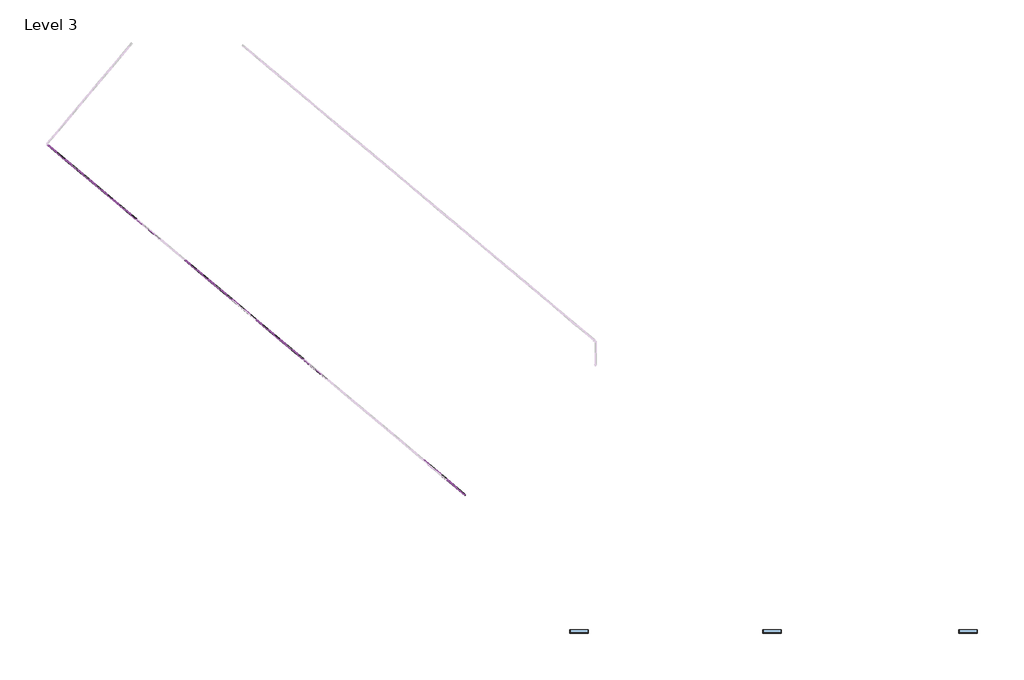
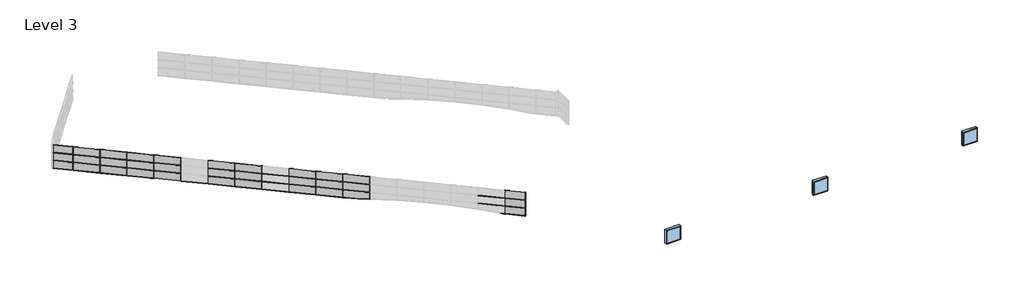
# One storey, part 1 of 4: 71 members, 33 plates, 3 windows.
"""IFC4 building model written with IfcOpenShell, lengths in millimetres."""

from ifc_helpers import new_model, si_unit, origin, place, context, project, spatial, transform, mapped, element, save
from components import member_e6b937b8, member_1b704979, member_8c8cb3fc, member_eaba9652, member_6adc840d, member_8e78e238, member_bfe1ccfe, member_e86309b8, member_6a3a2a88, member_4b62aec2, system_panel_glazed_a2c5a472, system_panel_glazed_5afc4ae2, system_panel_glazed_ccf48815, system_panel_glazed_4dfac3d5, fixed_6_x_6_52427b03

model = new_model("IFC4")

# Units and contexts
model_context = context("Model", 3, world=origin())
ifc_project = project(units=[si_unit("LENGTHUNIT", "METRE", prefix="MILLI")], contexts=[model_context])

# Site, building, storey
site = spatial("IfcSite", under=ifc_project)
building = spatial("IfcBuilding", under=site)
storey = spatial("IfcBuildingStorey", under=building, Name="Level 3", Elevation=6096.0)

# Members
placement = place(None, origin())
member_shape = member_e6b937b8(model_context)
element("IfcMember", 1, ObjectType="Rectangular Mullion : 1.5\" x 2.5\" rectangular", at=placement, inside=storey, context=model_context, shape_type="MappedRepresentation", body=[
    mapped(member_shape, transform((-19936.684019, -451.3297403, 7200.3444177), x_axis=(-0.76604444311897, 0.6427876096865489, 0.0), y_axis=(-0.6427876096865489, -0.76604444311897, 0.0), z_axis=(0.0, 0.0, 1.0))),
])
element("IfcMember", 2, ObjectType="Rectangular Mullion : 1.5\" x 2.5\" rectangular", at=placement, inside=storey, context=model_context, shape_type="MappedRepresentation", body=[
    mapped(member_shape, transform((-33946.1047947, 11303.9700657, 7200.3444177), x_axis=(-0.76604444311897, 0.6427876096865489, 0.0), y_axis=(-0.6427876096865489, -0.76604444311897, 0.0), z_axis=(0.0, 0.0, 1.0))),
])
element("IfcMember", 3, ObjectType="Rectangular Mullion : 1.5\" x 2.5\" rectangular", at=placement, inside=storey, context=model_context, shape_type="MappedRepresentation", body=[
    mapped(member_shape, transform((-36281.0082574, 13263.1867, 7200.3444177), x_axis=(-0.76604444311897, 0.6427876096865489, 0.0), y_axis=(-0.6427876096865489, -0.76604444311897, 0.0), z_axis=(0.0, 0.0, 1.0))),
])
element("IfcMember", 4, ObjectType="Rectangular Mullion : 1.5\" x 2.5\" rectangular", at=placement, inside=storey, context=model_context, shape_type="MappedRepresentation", body=[
    mapped(member_shape, transform((-38615.91172, 15222.4033343, 7200.3444177), x_axis=(-0.76604444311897, 0.6427876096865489, 0.0), y_axis=(-0.6427876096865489, -0.76604444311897, 0.0), z_axis=(0.0, 0.0, 1.0))),
])
element("IfcMember", 5, ObjectType="Rectangular Mullion : 1.5\" x 2.5\" rectangular", at=placement, inside=storey, context=model_context, shape_type="MappedRepresentation", body=[
    mapped(member_shape, transform((-40950.8151826, 17181.6199687, 7200.3444177), x_axis=(-0.76604444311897, 0.6427876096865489, 0.0), y_axis=(-0.6427876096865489, -0.76604444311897, 0.0), z_axis=(0.0, 0.0, 1.0))),
])
element("IfcMember", 6, ObjectType="Rectangular Mullion : 1.5\" x 2.5\" rectangular", at=placement, inside=storey, context=model_context, shape_type="MappedRepresentation", body=[
    mapped(member_shape, transform((-43285.7186452, 19140.836603, 7200.3444177), x_axis=(-0.76604444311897, 0.6427876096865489, 0.0), y_axis=(-0.6427876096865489, -0.76604444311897, 0.0), z_axis=(0.0, 0.0, 1.0))),
])
element("IfcMember", 7, ObjectType="Rectangular Mullion : 1.5\" x 2.5\" rectangular", at=placement, inside=storey, context=model_context, shape_type="MappedRepresentation", body=[
    mapped(member_shape, transform((-19936.684019, -451.3297403, 8267.1444177), x_axis=(-0.76604444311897, 0.6427876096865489, 0.0), y_axis=(-0.6427876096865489, -0.76604444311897, 0.0), z_axis=(0.0, 0.0, 1.0))),
])
element("IfcMember", 8, ObjectType="Rectangular Mullion : 1.5\" x 2.5\" rectangular", at=placement, inside=storey, context=model_context, shape_type="MappedRepresentation", body=[
    mapped(member_shape, transform((-33946.1047947, 11303.9700657, 8267.1444177), x_axis=(-0.76604444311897, 0.6427876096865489, 0.0), y_axis=(-0.6427876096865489, -0.76604444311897, 0.0), z_axis=(0.0, 0.0, 1.0))),
])
element("IfcMember", 9, ObjectType="Rectangular Mullion : 1.5\" x 2.5\" rectangular", at=placement, inside=storey, context=model_context, shape_type="MappedRepresentation", body=[
    mapped(member_shape, transform((-36281.0082574, 13263.1867, 8267.1444177), x_axis=(-0.76604444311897, 0.6427876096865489, 0.0), y_axis=(-0.6427876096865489, -0.76604444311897, 0.0), z_axis=(0.0, 0.0, 1.0))),
])
element("IfcMember", 10, ObjectType="Rectangular Mullion : 1.5\" x 2.5\" rectangular", at=placement, inside=storey, context=model_context, shape_type="MappedRepresentation", body=[
    mapped(member_shape, transform((-38615.91172, 15222.4033343, 8267.1444177), x_axis=(-0.76604444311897, 0.6427876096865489, 0.0), y_axis=(-0.6427876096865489, -0.76604444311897, 0.0), z_axis=(0.0, 0.0, 1.0))),
])
element("IfcMember", 11, ObjectType="Rectangular Mullion : 1.5\" x 2.5\" rectangular", at=placement, inside=storey, context=model_context, shape_type="MappedRepresentation", body=[
    mapped(member_shape, transform((-40950.8151826, 17181.6199687, 8267.1444177), x_axis=(-0.76604444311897, 0.6427876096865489, 0.0), y_axis=(-0.6427876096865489, -0.76604444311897, 0.0), z_axis=(0.0, 0.0, 1.0))),
])
element("IfcMember", 12, ObjectType="Rectangular Mullion : 1.5\" x 2.5\" rectangular", at=placement, inside=storey, context=model_context, shape_type="MappedRepresentation", body=[
    mapped(member_shape, transform((-43285.7186452, 19140.836603, 8267.1444177), x_axis=(-0.76604444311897, 0.6427876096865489, 0.0), y_axis=(-0.6427876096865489, -0.76604444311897, 0.0), z_axis=(0.0, 0.0, 1.0))),
])
element("IfcMember", 13, ObjectType="Rectangular Mullion : 1.5\" x 2.5\" rectangular", at=placement, inside=storey, context=model_context, shape_type="MappedRepresentation", body=[
    mapped(member_shape, transform((-19936.684019, -451.3297403, 9333.9444177), x_axis=(-0.76604444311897, 0.6427876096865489, 0.0), y_axis=(-0.6427876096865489, -0.76604444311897, 0.0), z_axis=(0.0, 0.0, 1.0))),
])
element("IfcMember", 14, ObjectType="Rectangular Mullion : 1.5\" x 2.5\" rectangular", at=placement, inside=storey, context=model_context, shape_type="MappedRepresentation", body=[
    mapped(member_shape, transform((-33946.1047947, 11303.9700657, 9333.9444177), x_axis=(-0.76604444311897, 0.6427876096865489, 0.0), y_axis=(-0.6427876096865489, -0.76604444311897, 0.0), z_axis=(0.0, 0.0, 1.0))),
])
element("IfcMember", 15, ObjectType="Rectangular Mullion : 1.5\" x 2.5\" rectangular", at=placement, inside=storey, context=model_context, shape_type="MappedRepresentation", body=[
    mapped(member_shape, transform((-36281.0082574, 13263.1867, 9333.9444177), x_axis=(-0.76604444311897, 0.6427876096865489, 0.0), y_axis=(-0.6427876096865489, -0.76604444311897, 0.0), z_axis=(0.0, 0.0, 1.0))),
])
element("IfcMember", 16, ObjectType="Rectangular Mullion : 1.5\" x 2.5\" rectangular", at=placement, inside=storey, context=model_context, shape_type="MappedRepresentation", body=[
    mapped(member_shape, transform((-38615.91172, 15222.4033343, 9333.9444177), x_axis=(-0.76604444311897, 0.6427876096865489, 0.0), y_axis=(-0.6427876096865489, -0.76604444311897, 0.0), z_axis=(0.0, 0.0, 1.0))),
])
element("IfcMember", 17, ObjectType="Rectangular Mullion : 1.5\" x 2.5\" rectangular", at=placement, inside=storey, context=model_context, shape_type="MappedRepresentation", body=[
    mapped(member_shape, transform((-40950.8151826, 17181.6199687, 9333.9444177), x_axis=(-0.76604444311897, 0.6427876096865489, 0.0), y_axis=(-0.6427876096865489, -0.76604444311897, 0.0), z_axis=(0.0, 0.0, 1.0))),
])
element("IfcMember", 18, ObjectType="Rectangular Mullion : 1.5\" x 2.5\" rectangular", at=placement, inside=storey, context=model_context, shape_type="MappedRepresentation", body=[
    mapped(member_shape, transform((-43285.7186452, 19140.836603, 9333.9444177), x_axis=(-0.76604444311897, 0.6427876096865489, 0.0), y_axis=(-0.6427876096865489, -0.76604444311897, 0.0), z_axis=(0.0, 0.0, 1.0))),
])
element("IfcMember", 19, ObjectType="Rectangular Mullion : 1.5\" x 2.5\" rectangular", at=placement, inside=storey, context=model_context, shape_type="MappedRepresentation", body=[
    mapped(member_shape, transform((-50290.4290331, 25018.486506, 7200.3444177), x_axis=(-0.76604444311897, 0.6427876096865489, 0.0), y_axis=(-0.6427876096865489, -0.76604444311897, 0.0), z_axis=(0.0, 0.0, 1.0))),
])
element("IfcMember", 20, ObjectType="Rectangular Mullion : 1.5\" x 2.5\" rectangular", at=placement, inside=storey, context=model_context, shape_type="MappedRepresentation", body=[
    mapped(member_shape, transform((-52625.3324958, 26977.7031403, 7200.3444177), x_axis=(-0.76604444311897, 0.6427876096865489, 0.0), y_axis=(-0.6427876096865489, -0.76604444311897, 0.0), z_axis=(0.0, 0.0, 1.0))),
])
element("IfcMember", 21, ObjectType="Rectangular Mullion : 1.5\" x 2.5\" rectangular", at=placement, inside=storey, context=model_context, shape_type="MappedRepresentation", body=[
    mapped(member_shape, transform((-54960.2359584, 28936.9197746, 7200.3444177), x_axis=(-0.76604444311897, 0.6427876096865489, 0.0), y_axis=(-0.6427876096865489, -0.76604444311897, 0.0), z_axis=(0.0, 0.0, 1.0))),
])
element("IfcMember", 22, ObjectType="Rectangular Mullion : 1.5\" x 2.5\" rectangular", at=placement, inside=storey, context=model_context, shape_type="MappedRepresentation", body=[
    mapped(member_shape, transform((-57295.139421, 30896.1364089, 7200.3444177), x_axis=(-0.76604444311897, 0.6427876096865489, 0.0), y_axis=(-0.6427876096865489, -0.76604444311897, 0.0), z_axis=(0.0, 0.0, 1.0))),
])
element("IfcMember", 23, ObjectType="Rectangular Mullion : 1.5\" x 2.5\" rectangular", at=placement, inside=storey, context=model_context, shape_type="MappedRepresentation", body=[
    mapped(member_shape, transform((-50290.4290331, 25018.486506, 8267.1444177), x_axis=(-0.76604444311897, 0.6427876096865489, 0.0), y_axis=(-0.6427876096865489, -0.76604444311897, 0.0), z_axis=(0.0, 0.0, 1.0))),
])
element("IfcMember", 24, ObjectType="Rectangular Mullion : 1.5\" x 2.5\" rectangular", at=placement, inside=storey, context=model_context, shape_type="MappedRepresentation", body=[
    mapped(member_shape, transform((-52625.3324958, 26977.7031403, 8267.1444177), x_axis=(-0.76604444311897, 0.6427876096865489, 0.0), y_axis=(-0.6427876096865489, -0.76604444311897, 0.0), z_axis=(0.0, 0.0, 1.0))),
])
element("IfcMember", 25, ObjectType="Rectangular Mullion : 1.5\" x 2.5\" rectangular", at=placement, inside=storey, context=model_context, shape_type="MappedRepresentation", body=[
    mapped(member_shape, transform((-54960.2359584, 28936.9197746, 8267.1444177), x_axis=(-0.76604444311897, 0.6427876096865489, 0.0), y_axis=(-0.6427876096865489, -0.76604444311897, 0.0), z_axis=(0.0, 0.0, 1.0))),
])
element("IfcMember", 26, ObjectType="Rectangular Mullion : 1.5\" x 2.5\" rectangular", at=placement, inside=storey, context=model_context, shape_type="MappedRepresentation", body=[
    mapped(member_shape, transform((-57295.139421, 30896.1364089, 8267.1444177), x_axis=(-0.76604444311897, 0.6427876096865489, 0.0), y_axis=(-0.6427876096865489, -0.76604444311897, 0.0), z_axis=(0.0, 0.0, 1.0))),
])
element("IfcMember", 27, ObjectType="Rectangular Mullion : 1.5\" x 2.5\" rectangular", at=placement, inside=storey, context=model_context, shape_type="MappedRepresentation", body=[
    mapped(member_shape, transform((-50290.4290331, 25018.486506, 9333.9444177), x_axis=(-0.76604444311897, 0.6427876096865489, 0.0), y_axis=(-0.6427876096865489, -0.76604444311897, 0.0), z_axis=(0.0, 0.0, 1.0))),
])
element("IfcMember", 28, ObjectType="Rectangular Mullion : 1.5\" x 2.5\" rectangular", at=placement, inside=storey, context=model_context, shape_type="MappedRepresentation", body=[
    mapped(member_shape, transform((-52625.3324958, 26977.7031403, 9333.9444177), x_axis=(-0.76604444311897, 0.6427876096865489, 0.0), y_axis=(-0.6427876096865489, -0.76604444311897, 0.0), z_axis=(0.0, 0.0, 1.0))),
])
element("IfcMember", 29, ObjectType="Rectangular Mullion : 1.5\" x 2.5\" rectangular", at=placement, inside=storey, context=model_context, shape_type="MappedRepresentation", body=[
    mapped(member_shape, transform((-54960.2359584, 28936.9197746, 9333.9444177), x_axis=(-0.76604444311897, 0.6427876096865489, 0.0), y_axis=(-0.6427876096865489, -0.76604444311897, 0.0), z_axis=(0.0, 0.0, 1.0))),
])
element("IfcMember", 30, ObjectType="Rectangular Mullion : 1.5\" x 2.5\" rectangular", at=placement, inside=storey, context=model_context, shape_type="MappedRepresentation", body=[
    mapped(member_shape, transform((-57295.139421, 30896.1364089, 9333.9444177), x_axis=(-0.76604444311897, 0.6427876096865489, 0.0), y_axis=(-0.6427876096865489, -0.76604444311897, 0.0), z_axis=(0.0, 0.0, 1.0))),
])
member_2_shape = member_1b704979(model_context)
element("IfcMember", 31, ObjectType="Rectangular Mullion : 1.5\" x 2.5\" rectangular", at=placement, inside=storey, context=model_context, shape_type="MappedRepresentation", body=[
    mapped(member_2_shape, transform((-18129.5386573, -1967.7047467, 6165.2944177), x_axis=(0.76604444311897, -0.6427876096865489, 0.0), y_axis=(-0.6427876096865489, -0.76604444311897, 0.0), z_axis=(0.0, 0.0, -1.0))),
])
element("IfcMember", 32, ObjectType="Rectangular Mullion : 1.5\" x 2.5\" rectangular", at=placement, inside=storey, context=model_context, shape_type="MappedRepresentation", body=[
    mapped(member_2_shape, transform((-18129.5386573, -1967.7047467, 7232.0944177), x_axis=(0.76604444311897, -0.6427876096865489, 0.0), y_axis=(-0.6427876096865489, -0.76604444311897, 0.0), z_axis=(0.0, 0.0, -1.0))),
])
element("IfcMember", 33, ObjectType="Rectangular Mullion : 1.5\" x 2.5\" rectangular", at=placement, inside=storey, context=model_context, shape_type="MappedRepresentation", body=[
    mapped(member_2_shape, transform((-18129.5386573, -1967.7047467, 8298.8944177), x_axis=(0.76604444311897, -0.6427876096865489, 0.0), y_axis=(-0.6427876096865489, -0.76604444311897, 0.0), z_axis=(0.0, 0.0, -1.0))),
])
member_3_shape = member_8c8cb3fc(model_context)
element("IfcMember", 34, ObjectType="Rectangular Mullion : 1.5\" x 2.5\" rectangular", at=placement, inside=storey, context=model_context, shape_type="MappedRepresentation", body=[
    mapped(member_3_shape, transform((-19936.684019, -451.3297403, 6133.5444177), x_axis=(-0.76604444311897, 0.6427876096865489, 0.0), y_axis=(-0.6427876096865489, -0.76604444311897, 0.0), z_axis=(0.0, 0.0, 1.0))),
])
member_4_shape = member_eaba9652(model_context)
element("IfcMember", 35, ObjectType="Rectangular Mullion : 2.5\" x 5\" rectangular", at=placement, inside=storey, context=model_context, shape_type="MappedRepresentation", body=[
    mapped(member_4_shape, transform((-33946.1047947, 11303.9700657, 6165.2944177), x_axis=(0.0, 0.0, 1.0), y_axis=(-0.642787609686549, -0.76604444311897, 0.0), z_axis=(0.7660444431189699, -0.6427876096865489, 0.0))),
])
element("IfcMember", 36, ObjectType="Rectangular Mullion : 2.5\" x 5\" rectangular", at=placement, inside=storey, context=model_context, shape_type="MappedRepresentation", body=[
    mapped(member_4_shape, transform((-36281.0082574, 13263.1867, 6165.2944177), x_axis=(0.0, 0.0, 1.0), y_axis=(-0.642787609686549, -0.76604444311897, 0.0), z_axis=(0.7660444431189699, -0.6427876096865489, 0.0))),
])
element("IfcMember", 37, ObjectType="Rectangular Mullion : 2.5\" x 5\" rectangular", at=placement, inside=storey, context=model_context, shape_type="MappedRepresentation", body=[
    mapped(member_4_shape, transform((-38615.91172, 15222.4033343, 6165.2944177), x_axis=(0.0, 0.0, 1.0), y_axis=(-0.6427876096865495, -0.7660444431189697, 0.0), z_axis=(0.7660444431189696, -0.6427876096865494, 0.0))),
])
element("IfcMember", 38, ObjectType="Rectangular Mullion : 2.5\" x 5\" rectangular", at=placement, inside=storey, context=model_context, shape_type="MappedRepresentation", body=[
    mapped(member_4_shape, transform((-40950.8151826, 17181.6199687, 6165.2944177), x_axis=(0.0, 0.0, 1.0), y_axis=(-0.6427876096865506, -0.7660444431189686, 0.0), z_axis=(0.7660444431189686, -0.6427876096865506, 0.0))),
])
element("IfcMember", 39, ObjectType="Rectangular Mullion : 2.5\" x 5\" rectangular", at=placement, inside=storey, context=model_context, shape_type="MappedRepresentation", body=[
    mapped(member_4_shape, transform((-43285.7186452, 19140.836603, 6165.2944177), x_axis=(0.0, 0.0, 1.0), y_axis=(-0.642787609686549, -0.76604444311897, 0.0), z_axis=(0.7660444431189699, -0.6427876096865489, 0.0))),
])
element("IfcMember", 40, ObjectType="Rectangular Mullion : 2.5\" x 5\" rectangular", at=placement, inside=storey, context=model_context, shape_type="MappedRepresentation", body=[
    mapped(member_4_shape, transform((-19936.684019, -451.3297403, 7232.0944177), x_axis=(0.0, 0.0, 1.0), y_axis=(-0.6427876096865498, -0.7660444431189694, 0.0), z_axis=(0.7660444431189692, -0.6427876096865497, 0.0))),
])
element("IfcMember", 41, ObjectType="Rectangular Mullion : 2.5\" x 5\" rectangular", at=placement, inside=storey, context=model_context, shape_type="MappedRepresentation", body=[
    mapped(member_4_shape, transform((-33946.1047947, 11303.9700657, 7232.0944177), x_axis=(0.0, 0.0, 1.0), y_axis=(-0.6427876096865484, -0.7660444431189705, 0.0), z_axis=(0.7660444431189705, -0.6427876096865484, 0.0))),
])
element("IfcMember", 42, ObjectType="Rectangular Mullion : 2.5\" x 5\" rectangular", at=placement, inside=storey, context=model_context, shape_type="MappedRepresentation", body=[
    mapped(member_4_shape, transform((-36281.0082574, 13263.1867, 7232.0944177), x_axis=(0.0, 0.0, 1.0), y_axis=(-0.6427876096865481, -0.7660444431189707, 0.0), z_axis=(0.7660444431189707, -0.6427876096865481, 0.0))),
])
element("IfcMember", 43, ObjectType="Rectangular Mullion : 2.5\" x 5\" rectangular", at=placement, inside=storey, context=model_context, shape_type="MappedRepresentation", body=[
    mapped(member_4_shape, transform((-38615.91172, 15222.4033343, 7232.0944177), x_axis=(0.0, 0.0, 1.0), y_axis=(-0.642787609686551, -0.7660444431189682, 0.0), z_axis=(0.7660444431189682, -0.642787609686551, 0.0))),
])
element("IfcMember", 44, ObjectType="Rectangular Mullion : 2.5\" x 5\" rectangular", at=placement, inside=storey, context=model_context, shape_type="MappedRepresentation", body=[
    mapped(member_4_shape, transform((-40950.8151826, 17181.6199687, 7232.0944177), x_axis=(0.0, 0.0, 1.0), y_axis=(-0.642787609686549, -0.76604444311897, 0.0), z_axis=(0.7660444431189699, -0.6427876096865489, 0.0))),
])
element("IfcMember", 45, ObjectType="Rectangular Mullion : 2.5\" x 5\" rectangular", at=placement, inside=storey, context=model_context, shape_type="MappedRepresentation", body=[
    mapped(member_4_shape, transform((-43285.7186452, 19140.836603, 7232.0944177), x_axis=(0.0, 0.0, 1.0), y_axis=(-0.6427876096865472, -0.7660444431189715, 0.0), z_axis=(0.7660444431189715, -0.6427876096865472, 0.0))),
])
element("IfcMember", 46, ObjectType="Rectangular Mullion : 2.5\" x 5\" rectangular", at=placement, inside=storey, context=model_context, shape_type="MappedRepresentation", body=[
    mapped(member_4_shape, transform((-19936.684019, -451.3297403, 8298.8944177), x_axis=(0.0, 0.0, 1.0), y_axis=(-0.642787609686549, -0.76604444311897, 0.0), z_axis=(0.7660444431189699, -0.6427876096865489, 0.0))),
])
element("IfcMember", 47, ObjectType="Rectangular Mullion : 2.5\" x 5\" rectangular", at=placement, inside=storey, context=model_context, shape_type="MappedRepresentation", body=[
    mapped(member_4_shape, transform((-33946.1047947, 11303.9700657, 8298.8944177), x_axis=(0.0, 0.0, 1.0), y_axis=(-0.642787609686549, -0.76604444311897, 0.0), z_axis=(0.7660444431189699, -0.6427876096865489, 0.0))),
])
element("IfcMember", 48, ObjectType="Rectangular Mullion : 2.5\" x 5\" rectangular", at=placement, inside=storey, context=model_context, shape_type="MappedRepresentation", body=[
    mapped(member_4_shape, transform((-36281.0082574, 13263.1867, 8298.8944177), x_axis=(0.0, 0.0, 1.0), y_axis=(-0.6427876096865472, -0.7660444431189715, 0.0), z_axis=(0.7660444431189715, -0.6427876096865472, 0.0))),
])
element("IfcMember", 49, ObjectType="Rectangular Mullion : 2.5\" x 5\" rectangular", at=placement, inside=storey, context=model_context, shape_type="MappedRepresentation", body=[
    mapped(member_4_shape, transform((-38615.91172, 15222.4033343, 8298.8944177), x_axis=(0.0, 0.0, 1.0), y_axis=(-0.6427876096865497, -0.7660444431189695, 0.0), z_axis=(0.7660444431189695, -0.6427876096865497, 0.0))),
])
element("IfcMember", 50, ObjectType="Rectangular Mullion : 2.5\" x 5\" rectangular", at=placement, inside=storey, context=model_context, shape_type="MappedRepresentation", body=[
    mapped(member_4_shape, transform((-40950.8151826, 17181.6199687, 8298.8944177), x_axis=(0.0, 0.0, 1.0), y_axis=(-0.642787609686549, -0.76604444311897, 0.0), z_axis=(0.7660444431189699, -0.6427876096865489, 0.0))),
])
element("IfcMember", 51, ObjectType="Rectangular Mullion : 2.5\" x 5\" rectangular", at=placement, inside=storey, context=model_context, shape_type="MappedRepresentation", body=[
    mapped(member_4_shape, transform((-43285.7186452, 19140.836603, 8298.8944177), x_axis=(0.0, 0.0, 1.0), y_axis=(-0.64278760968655, -0.766044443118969, 0.0), z_axis=(0.766044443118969, -0.64278760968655, 0.0))),
])
element("IfcMember", 52, ObjectType="Rectangular Mullion : 2.5\" x 5\" rectangular", at=placement, inside=storey, context=model_context, shape_type="MappedRepresentation", body=[
    mapped(member_4_shape, transform((-45620.6221079, 21100.0532373, 6165.2944177), x_axis=(0.0, 0.0, 1.0), y_axis=(-0.64278760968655, -0.766044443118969, 0.0), z_axis=(0.766044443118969, -0.64278760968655, 0.0))),
])
element("IfcMember", 53, ObjectType="Rectangular Mullion : 2.5\" x 5\" rectangular", at=placement, inside=storey, context=model_context, shape_type="MappedRepresentation", body=[
    mapped(member_4_shape, transform((-50290.4290331, 25018.486506, 6165.2944177), x_axis=(0.0, 0.0, 1.0), y_axis=(-0.6427876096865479, -0.7660444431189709, 0.0), z_axis=(0.7660444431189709, -0.6427876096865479, 0.0))),
])
element("IfcMember", 54, ObjectType="Rectangular Mullion : 2.5\" x 5\" rectangular", at=placement, inside=storey, context=model_context, shape_type="MappedRepresentation", body=[
    mapped(member_4_shape, transform((-52625.3324958, 26977.7031403, 6165.2944177), x_axis=(0.0, 0.0, 1.0), y_axis=(-0.6427876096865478, -0.766044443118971, 0.0), z_axis=(0.766044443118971, -0.6427876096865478, 0.0))),
])
element("IfcMember", 55, ObjectType="Rectangular Mullion : 2.5\" x 5\" rectangular", at=placement, inside=storey, context=model_context, shape_type="MappedRepresentation", body=[
    mapped(member_4_shape, transform((-54960.2359584, 28936.9197746, 6165.2944177), x_axis=(0.0, 0.0, 1.0), y_axis=(-0.6427876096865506, -0.7660444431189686, 0.0), z_axis=(0.7660444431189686, -0.6427876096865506, 0.0))),
])
element("IfcMember", 56, ObjectType="Rectangular Mullion : 2.5\" x 5\" rectangular", at=placement, inside=storey, context=model_context, shape_type="MappedRepresentation", body=[
    mapped(member_4_shape, transform((-50290.4290331, 25018.486506, 7232.0944177), x_axis=(0.0, 0.0, 1.0), y_axis=(-0.6427876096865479, -0.7660444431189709, 0.0), z_axis=(0.7660444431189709, -0.6427876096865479, 0.0))),
])
element("IfcMember", 57, ObjectType="Rectangular Mullion : 2.5\" x 5\" rectangular", at=placement, inside=storey, context=model_context, shape_type="MappedRepresentation", body=[
    mapped(member_4_shape, transform((-52625.3324958, 26977.7031403, 7232.0944177), x_axis=(0.0, 0.0, 1.0), y_axis=(-0.6427876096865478, -0.766044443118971, 0.0), z_axis=(0.766044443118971, -0.6427876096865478, 0.0))),
])
element("IfcMember", 58, ObjectType="Rectangular Mullion : 2.5\" x 5\" rectangular", at=placement, inside=storey, context=model_context, shape_type="MappedRepresentation", body=[
    mapped(member_4_shape, transform((-54960.2359584, 28936.9197746, 7232.0944177), x_axis=(0.0, 0.0, 1.0), y_axis=(-0.6427876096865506, -0.7660444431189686, 0.0), z_axis=(0.7660444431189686, -0.6427876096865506, 0.0))),
])
element("IfcMember", 59, ObjectType="Rectangular Mullion : 2.5\" x 5\" rectangular", at=placement, inside=storey, context=model_context, shape_type="MappedRepresentation", body=[
    mapped(member_4_shape, transform((-50290.4290331, 25018.486506, 8298.8944177), x_axis=(0.0, 0.0, 1.0), y_axis=(-0.6427876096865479, -0.7660444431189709, 0.0), z_axis=(0.7660444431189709, -0.6427876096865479, 0.0))),
])
element("IfcMember", 60, ObjectType="Rectangular Mullion : 2.5\" x 5\" rectangular", at=placement, inside=storey, context=model_context, shape_type="MappedRepresentation", body=[
    mapped(member_4_shape, transform((-52625.3324958, 26977.7031403, 8298.8944177), x_axis=(0.0, 0.0, 1.0), y_axis=(-0.6427876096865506, -0.7660444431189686, 0.0), z_axis=(0.7660444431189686, -0.6427876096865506, 0.0))),
])
element("IfcMember", 61, ObjectType="Rectangular Mullion : 2.5\" x 5\" rectangular", at=placement, inside=storey, context=model_context, shape_type="MappedRepresentation", body=[
    mapped(member_4_shape, transform((-54960.2359584, 28936.9197746, 8298.8944177), x_axis=(0.0, 0.0, 1.0), y_axis=(-0.6427876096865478, -0.766044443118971, 0.0), z_axis=(0.766044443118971, -0.6427876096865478, 0.0))),
])
member_5_shape = member_6adc840d(model_context)
element("IfcMember", 62, ObjectType="Rectangular Mullion : 2.5\" x 5\" rectangular", at=placement, inside=storey, context=model_context, shape_type="MappedRepresentation", body=[
    mapped(member_5_shape, transform((-18158.7249506, -1943.2145388, 6165.2944177), x_axis=(0.0, 0.0, 1.0), y_axis=(-0.642787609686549, -0.76604444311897, 0.0), z_axis=(0.76604444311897, -0.642787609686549, 0.0))),
])
element("IfcMember", 63, ObjectType="Rectangular Mullion : 2.5\" x 5\" rectangular", at=placement, inside=storey, context=model_context, shape_type="MappedRepresentation", body=[
    mapped(member_5_shape, transform((-18158.7249506, -1943.2145388, 7232.0944177), x_axis=(0.0, 0.0, 1.0), y_axis=(-0.6427876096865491, -0.7660444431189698, 0.0), z_axis=(0.7660444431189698, -0.6427876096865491, 0.0))),
])
element("IfcMember", 64, ObjectType="Rectangular Mullion : 2.5\" x 5\" rectangular", at=placement, inside=storey, context=model_context, shape_type="MappedRepresentation", body=[
    mapped(member_5_shape, transform((-18158.7249506, -1943.2145388, 8298.8944177), x_axis=(0.0, 0.0, 1.0), y_axis=(-0.6427876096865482, -0.7660444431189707, 0.0), z_axis=(0.7660444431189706, -0.6427876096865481, 0.0))),
])
member_6_shape = member_8e78e238(model_context)
element("IfcMember", 65, ObjectType="Rectangular Mullion : 2.5\" x 5\" rectangular", at=placement, inside=storey, context=model_context, shape_type="MappedRepresentation", body=[
    mapped(member_6_shape, transform((-57295.139421, 30896.1364089, 6165.2944177), x_axis=(0.0, 0.0, 1.0), y_axis=(-0.6427876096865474, -0.7660444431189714, 0.0), z_axis=(0.7660444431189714, -0.6427876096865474, 0.0))),
])
element("IfcMember", 66, ObjectType="Rectangular Mullion : 2.5\" x 5\" rectangular", at=placement, inside=storey, context=model_context, shape_type="MappedRepresentation", body=[
    mapped(member_6_shape, transform((-57295.139421, 30896.1364089, 7232.0944177), x_axis=(0.0, 0.0, 1.0), y_axis=(-0.6427876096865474, -0.7660444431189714, 0.0), z_axis=(0.7660444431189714, -0.6427876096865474, 0.0))),
])
element("IfcMember", 67, ObjectType="Rectangular Mullion : 2.5\" x 5\" rectangular", at=placement, inside=storey, context=model_context, shape_type="MappedRepresentation", body=[
    mapped(member_6_shape, transform((-57295.139421, 30896.1364089, 8298.8944177), x_axis=(0.0, 0.0, 1.0), y_axis=(-0.6427876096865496, -0.7660444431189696, 0.0), z_axis=(0.7660444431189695, -0.6427876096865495, 0.0))),
])
member_7_shape = member_bfe1ccfe(model_context)
element("IfcMember", 68, ObjectType="Rectangular Mullion : 2.5\" x 5\" rectangular", at=placement, inside=storey, context=model_context, shape_type="MappedRepresentation", body=[
    mapped(member_7_shape, transform((-19936.684019, -451.3297403, 6165.2944177), x_axis=(0.0, 0.0, 1.0), y_axis=(-0.6427876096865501, -0.766044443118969, 0.0), z_axis=(0.766044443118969, -0.6427876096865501, 0.0))),
])
member_8_shape = member_e86309b8(model_context)
element("IfcMember", 69, ObjectType="Rectangular Mullion : 2.5\" x 5\" rectangular", at=placement, inside=storey, context=model_context, shape_type="MappedRepresentation", body=[
    mapped(member_8_shape, transform((-32671.3277007, 10234.3050762, 6165.2944177), x_axis=(0.0, 0.0, 1.0), y_axis=(-0.6427876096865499, -0.7660444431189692, 0.0), z_axis=(0.7660444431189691, -0.6427876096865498, 0.0))),
])
member_9_shape = member_6a3a2a88(model_context)
element("IfcMember", 70, ObjectType="Rectangular Mullion : 2.5\" x 5\" rectangular", at=placement, inside=storey, context=model_context, shape_type="MappedRepresentation", body=[
    mapped(member_9_shape, transform((-20333.1778573, -118.6319067, 6165.2944177), x_axis=(-0.09065517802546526, 0.07606872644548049, -0.992972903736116), y_axis=(-0.64278760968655, -0.766044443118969, 0.0), z_axis=(-0.7606613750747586, 0.6382706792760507, 0.11834193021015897))),
])
member_10_shape = member_4b62aec2(model_context)
element("IfcMember", 71, ObjectType="Rectangular Mullion : 2.5\" x 5\" rectangular", at=placement, inside=storey, context=model_context, shape_type="MappedRepresentation", body=[
    mapped(member_10_shape, transform((-32671.3277007, 10234.3050762, 6165.2944177), x_axis=(0.08028922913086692, -0.06737066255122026, -0.9944922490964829), y_axis=(-0.6427876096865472, -0.7660444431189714, 0.0), z_axis=(-0.7618252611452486, 0.6392472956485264, -0.1048101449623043))),
])

# Plates
system_panel_glazed_shape = system_panel_glazed_a2c5a472(model_context)
element("IfcPlate", 72, ObjectType="System Panel : Glazed", at=placement, inside=storey, context=model_context, shape_type="MappedRepresentation", body=[
    mapped(system_panel_glazed_shape, transform((-35113.5565261, 12283.5783829, 6197.0444177), x_axis=(-0.76604444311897, 0.6427876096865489, 0.0), y_axis=(-0.6427876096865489, -0.76604444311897, 0.0), z_axis=(0.0, 0.0, 1.0))),
])
element("IfcPlate", 73, ObjectType="System Panel : Glazed", at=placement, inside=storey, context=model_context, shape_type="MappedRepresentation", body=[
    mapped(system_panel_glazed_shape, transform((-37448.4599887, 14242.7950172, 6197.0444177), x_axis=(-0.76604444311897, 0.6427876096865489, 0.0), y_axis=(-0.6427876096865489, -0.76604444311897, 0.0), z_axis=(0.0, 0.0, 1.0))),
])
element("IfcPlate", 74, ObjectType="System Panel : Glazed", at=placement, inside=storey, context=model_context, shape_type="MappedRepresentation", body=[
    mapped(system_panel_glazed_shape, transform((-42118.2669139, 18161.2282858, 6197.0444177), x_axis=(-0.76604444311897, 0.6427876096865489, 0.0), y_axis=(-0.6427876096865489, -0.76604444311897, 0.0), z_axis=(0.0, 0.0, 1.0))),
])
element("IfcPlate", 75, ObjectType="System Panel : Glazed", at=placement, inside=storey, context=model_context, shape_type="MappedRepresentation", body=[
    mapped(system_panel_glazed_shape, transform((-44453.1703766, 20120.4449202, 6197.0444177), x_axis=(-0.76604444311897, 0.6427876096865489, 0.0), y_axis=(-0.6427876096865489, -0.76604444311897, 0.0), z_axis=(0.0, 0.0, 1.0))),
])
element("IfcPlate", 76, ObjectType="System Panel : Glazed", at=placement, inside=storey, context=model_context, shape_type="MappedRepresentation", body=[
    mapped(system_panel_glazed_shape, transform((-32778.6530634, 10324.3617485, 7263.8444177), x_axis=(-0.76604444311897, 0.6427876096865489, 0.0), y_axis=(-0.6427876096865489, -0.76604444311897, 0.0), z_axis=(0.0, 0.0, 1.0))),
])
element("IfcPlate", 77, ObjectType="System Panel : Glazed", at=placement, inside=storey, context=model_context, shape_type="MappedRepresentation", body=[
    mapped(system_panel_glazed_shape, transform((-35113.5565261, 12283.5783829, 7263.8444177), x_axis=(-0.76604444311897, 0.6427876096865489, 0.0), y_axis=(-0.6427876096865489, -0.76604444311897, 0.0), z_axis=(0.0, 0.0, 1.0))),
])
element("IfcPlate", 78, ObjectType="System Panel : Glazed", at=placement, inside=storey, context=model_context, shape_type="MappedRepresentation", body=[
    mapped(system_panel_glazed_shape, transform((-37448.4599887, 14242.7950172, 7263.8444177), x_axis=(-0.76604444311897, 0.6427876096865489, 0.0), y_axis=(-0.6427876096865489, -0.76604444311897, 0.0), z_axis=(0.0, 0.0, 1.0))),
])
element("IfcPlate", 79, ObjectType="System Panel : Glazed", at=placement, inside=storey, context=model_context, shape_type="MappedRepresentation", body=[
    mapped(system_panel_glazed_shape, transform((-42118.2669139, 18161.2282858, 7263.8444177), x_axis=(-0.76604444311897, 0.6427876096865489, 0.0), y_axis=(-0.6427876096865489, -0.76604444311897, 0.0), z_axis=(0.0, 0.0, 1.0))),
])
element("IfcPlate", 80, ObjectType="System Panel : Glazed", at=placement, inside=storey, context=model_context, shape_type="MappedRepresentation", body=[
    mapped(system_panel_glazed_shape, transform((-44453.1703766, 20120.4449202, 7263.8444177), x_axis=(-0.76604444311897, 0.6427876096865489, 0.0), y_axis=(-0.6427876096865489, -0.76604444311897, 0.0), z_axis=(0.0, 0.0, 1.0))),
])
element("IfcPlate", 81, ObjectType="System Panel : Glazed", at=placement, inside=storey, context=model_context, shape_type="MappedRepresentation", body=[
    mapped(system_panel_glazed_shape, transform((-32778.6530634, 10324.3617485, 8330.6444177), x_axis=(-0.76604444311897, 0.6427876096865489, 0.0), y_axis=(-0.6427876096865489, -0.76604444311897, 0.0), z_axis=(0.0, 0.0, 1.0))),
])
element("IfcPlate", 82, ObjectType="System Panel : Glazed", at=placement, inside=storey, context=model_context, shape_type="MappedRepresentation", body=[
    mapped(system_panel_glazed_shape, transform((-35113.5565261, 12283.5783829, 8330.6444177), x_axis=(-0.76604444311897, 0.6427876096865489, 0.0), y_axis=(-0.6427876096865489, -0.76604444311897, 0.0), z_axis=(0.0, 0.0, 1.0))),
])
element("IfcPlate", 83, ObjectType="System Panel : Glazed", at=placement, inside=storey, context=model_context, shape_type="MappedRepresentation", body=[
    mapped(system_panel_glazed_shape, transform((-37448.4599887, 14242.7950172, 8330.6444177), x_axis=(-0.76604444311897, 0.6427876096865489, 0.0), y_axis=(-0.6427876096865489, -0.76604444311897, 0.0), z_axis=(0.0, 0.0, 1.0))),
])
element("IfcPlate", 84, ObjectType="System Panel : Glazed", at=placement, inside=storey, context=model_context, shape_type="MappedRepresentation", body=[
    mapped(system_panel_glazed_shape, transform((-42118.2669139, 18161.2282858, 8330.6444177), x_axis=(-0.76604444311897, 0.6427876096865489, 0.0), y_axis=(-0.6427876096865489, -0.76604444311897, 0.0), z_axis=(0.0, 0.0, 1.0))),
])
element("IfcPlate", 85, ObjectType="System Panel : Glazed", at=placement, inside=storey, context=model_context, shape_type="MappedRepresentation", body=[
    mapped(system_panel_glazed_shape, transform((-44453.1703766, 20120.4449202, 8330.6444177), x_axis=(-0.76604444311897, 0.6427876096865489, 0.0), y_axis=(-0.6427876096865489, -0.76604444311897, 0.0), z_axis=(0.0, 0.0, 1.0))),
])
element("IfcPlate", 86, ObjectType="System Panel : Glazed", at=placement, inside=storey, context=model_context, shape_type="MappedRepresentation", body=[
    mapped(system_panel_glazed_shape, transform((-49122.9773018, 24038.8781888, 6197.0444177), x_axis=(-0.76604444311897, 0.6427876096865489, 0.0), y_axis=(-0.6427876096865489, -0.76604444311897, 0.0), z_axis=(0.0, 0.0, 1.0))),
])
element("IfcPlate", 87, ObjectType="System Panel : Glazed", at=placement, inside=storey, context=model_context, shape_type="MappedRepresentation", body=[
    mapped(system_panel_glazed_shape, transform((-49122.9773018, 24038.8781888, 7263.8444177), x_axis=(-0.76604444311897, 0.6427876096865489, 0.0), y_axis=(-0.6427876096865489, -0.76604444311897, 0.0), z_axis=(0.0, 0.0, 1.0))),
])
element("IfcPlate", 88, ObjectType="System Panel : Glazed", at=placement, inside=storey, context=model_context, shape_type="MappedRepresentation", body=[
    mapped(system_panel_glazed_shape, transform((-49122.9773018, 24038.8781888, 8330.6444177), x_axis=(-0.76604444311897, 0.6427876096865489, 0.0), y_axis=(-0.6427876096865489, -0.76604444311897, 0.0), z_axis=(0.0, 0.0, 1.0))),
])
element("IfcPlate", 89, ObjectType="System Panel : Glazed", at=placement, inside=storey, context=model_context, shape_type="MappedRepresentation", body=[
    mapped(system_panel_glazed_shape, transform((-51457.8807644, 25998.0948231, 6197.0444177), x_axis=(-0.76604444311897, 0.6427876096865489, 0.0), y_axis=(-0.6427876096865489, -0.76604444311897, 0.0), z_axis=(0.0, 0.0, 1.0))),
])
element("IfcPlate", 90, ObjectType="System Panel : Glazed", at=placement, inside=storey, context=model_context, shape_type="MappedRepresentation", body=[
    mapped(system_panel_glazed_shape, transform((-51457.8807644, 25998.0948231, 7263.8444177), x_axis=(-0.76604444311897, 0.6427876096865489, 0.0), y_axis=(-0.6427876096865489, -0.76604444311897, 0.0), z_axis=(0.0, 0.0, 1.0))),
])
element("IfcPlate", 91, ObjectType="System Panel : Glazed", at=placement, inside=storey, context=model_context, shape_type="MappedRepresentation", body=[
    mapped(system_panel_glazed_shape, transform((-51457.8807644, 25998.0948231, 8330.6444177), x_axis=(-0.76604444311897, 0.6427876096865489, 0.0), y_axis=(-0.6427876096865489, -0.76604444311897, 0.0), z_axis=(0.0, 0.0, 1.0))),
])
element("IfcPlate", 92, ObjectType="System Panel : Glazed", at=placement, inside=storey, context=model_context, shape_type="MappedRepresentation", body=[
    mapped(system_panel_glazed_shape, transform((-53792.7842271, 27957.3114575, 6197.0444177), x_axis=(-0.76604444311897, 0.6427876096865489, 0.0), y_axis=(-0.6427876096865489, -0.76604444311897, 0.0), z_axis=(0.0, 0.0, 1.0))),
])
element("IfcPlate", 93, ObjectType="System Panel : Glazed", at=placement, inside=storey, context=model_context, shape_type="MappedRepresentation", body=[
    mapped(system_panel_glazed_shape, transform((-53792.7842271, 27957.3114575, 7263.8444177), x_axis=(-0.76604444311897, 0.6427876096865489, 0.0), y_axis=(-0.6427876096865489, -0.76604444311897, 0.0), z_axis=(0.0, 0.0, 1.0))),
])
element("IfcPlate", 94, ObjectType="System Panel : Glazed", at=placement, inside=storey, context=model_context, shape_type="MappedRepresentation", body=[
    mapped(system_panel_glazed_shape, transform((-53792.7842271, 27957.3114575, 8330.6444177), x_axis=(-0.76604444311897, 0.6427876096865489, 0.0), y_axis=(-0.6427876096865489, -0.76604444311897, 0.0), z_axis=(0.0, 0.0, 1.0))),
])
element("IfcPlate", 95, ObjectType="System Panel : Glazed", at=placement, inside=storey, context=model_context, shape_type="MappedRepresentation", body=[
    mapped(system_panel_glazed_shape, transform((-56127.6876897, 29916.5280918, 6197.0444177), x_axis=(-0.76604444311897, 0.6427876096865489, 0.0), y_axis=(-0.6427876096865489, -0.76604444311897, 0.0), z_axis=(0.0, 0.0, 1.0))),
])
element("IfcPlate", 96, ObjectType="System Panel : Glazed", at=placement, inside=storey, context=model_context, shape_type="MappedRepresentation", body=[
    mapped(system_panel_glazed_shape, transform((-56127.6876897, 29916.5280918, 7263.8444177), x_axis=(-0.76604444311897, 0.6427876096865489, 0.0), y_axis=(-0.6427876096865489, -0.76604444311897, 0.0), z_axis=(0.0, 0.0, 1.0))),
])
element("IfcPlate", 97, ObjectType="System Panel : Glazed", at=placement, inside=storey, context=model_context, shape_type="MappedRepresentation", body=[
    mapped(system_panel_glazed_shape, transform((-56127.6876897, 29916.5280918, 8330.6444177), x_axis=(-0.76604444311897, 0.6427876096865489, 0.0), y_axis=(-0.6427876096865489, -0.76604444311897, 0.0), z_axis=(0.0, 0.0, 1.0))),
])
system_panel_glazed_2_shape = system_panel_glazed_5afc4ae2(model_context)
element("IfcPlate", 98, ObjectType="System Panel : Glazed", at=placement, inside=storey, context=model_context, shape_type="MappedRepresentation", body=[
    mapped(system_panel_glazed_2_shape, transform((-19040.4079115, -1203.3946915, 6197.0444177), x_axis=(-0.76604444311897, 0.6427876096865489, 0.0), y_axis=(-0.6427876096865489, -0.76604444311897, 0.0), z_axis=(0.0, 0.0, 1.0))),
])
element("IfcPlate", 99, ObjectType="System Panel : Glazed", at=placement, inside=storey, context=model_context, shape_type="MappedRepresentation", body=[
    mapped(system_panel_glazed_2_shape, transform((-19040.4079115, -1203.3946915, 7263.8444177), x_axis=(-0.76604444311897, 0.6427876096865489, 0.0), y_axis=(-0.6427876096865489, -0.76604444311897, 0.0), z_axis=(0.0, 0.0, 1.0))),
])
element("IfcPlate", 100, ObjectType="System Panel : Glazed", at=placement, inside=storey, context=model_context, shape_type="MappedRepresentation", body=[
    mapped(system_panel_glazed_2_shape, transform((-19040.4079115, -1203.3946915, 8330.6444177), x_axis=(-0.76604444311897, 0.6427876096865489, 0.0), y_axis=(-0.6427876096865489, -0.76604444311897, 0.0), z_axis=(0.0, 0.0, 1.0))),
])
system_panel_glazed_3_shape = system_panel_glazed_ccf48815(model_context)
element("IfcPlate", 101, ObjectType="System Panel : Glazed", at=placement, inside=storey, context=model_context, shape_type="MappedRepresentation", body=[
    mapped(system_panel_glazed_3_shape, transform((-58169.5258086, 31629.8337042, 6197.0444177), x_axis=(-0.76604444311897, 0.6427876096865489, 0.0), y_axis=(-0.6427876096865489, -0.76604444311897, 0.0), z_axis=(0.0, 0.0, 1.0))),
])
element("IfcPlate", 102, ObjectType="System Panel : Glazed", at=placement, inside=storey, context=model_context, shape_type="MappedRepresentation", body=[
    mapped(system_panel_glazed_3_shape, transform((-58169.5258086, 31629.8337042, 7263.8444177), x_axis=(-0.76604444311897, 0.6427876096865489, 0.0), y_axis=(-0.6427876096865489, -0.76604444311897, 0.0), z_axis=(0.0, 0.0, 1.0))),
])
element("IfcPlate", 103, ObjectType="System Panel : Glazed", at=placement, inside=storey, context=model_context, shape_type="MappedRepresentation", body=[
    mapped(system_panel_glazed_3_shape, transform((-58169.5258086, 31629.8337042, 8330.6444177), x_axis=(-0.76604444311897, 0.6427876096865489, 0.0), y_axis=(-0.6427876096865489, -0.76604444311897, 0.0), z_axis=(0.0, 0.0, 1.0))),
])
system_panel_glazed_4_shape = system_panel_glazed_4dfac3d5(model_context)
element("IfcPlate", 104, ObjectType="System Panel : Glazed", at=placement, inside=storey, context=model_context, shape_type="MappedRepresentation", body=[
    mapped(system_panel_glazed_4_shape, transform((-32778.6530634, 10324.3617485, 6197.0444177), x_axis=(-0.76604444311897, 0.6427876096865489, 0.0), y_axis=(-0.6427876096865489, -0.76604444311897, 0.0), z_axis=(0.0, 0.0, 1.0))),
])

# Windows
fixed_6_x_6_shape = fixed_6_x_6_52427b03(model_context)
element("IfcWindow", 105, ObjectType="Fixed : 6' x 6'", at=placement, inside=storey, context=model_context, shape_type="MappedRepresentation", body=[
    mapped(fixed_6_x_6_shape, transform((-7018.6261573, -15349.7504393, 6008.8335849), x_axis=(-1.0, 0.0, 0.0), y_axis=(0.0, -1.0, 0.0), z_axis=(0.0, 0.0, 1.0))),
])
element("IfcWindow", 106, ObjectType="Fixed : 6' x 6'", at=placement, inside=storey, context=model_context, shape_type="MappedRepresentation", body=[
    mapped(fixed_6_x_6_shape, transform((11878.9738427, -15349.7504393, 6008.8335849), x_axis=(-1.0, 0.0, 0.0), y_axis=(0.0, -1.0, 0.0), z_axis=(0.0, 0.0, 1.0))),
])
element("IfcWindow", 107, ObjectType="Fixed : 6' x 6'", at=placement, inside=storey, context=model_context, shape_type="MappedRepresentation", body=[
    mapped(fixed_6_x_6_shape, transform((31081.3738427, -15349.7504393, 6008.8335849), x_axis=(-1.0, 0.0, 0.0), y_axis=(0.0, -1.0, 0.0), z_axis=(0.0, 0.0, 1.0))),
])

save(model, "model.ifc")
